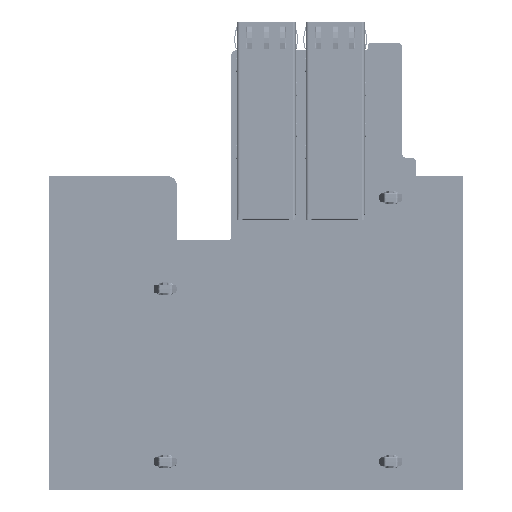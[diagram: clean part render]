
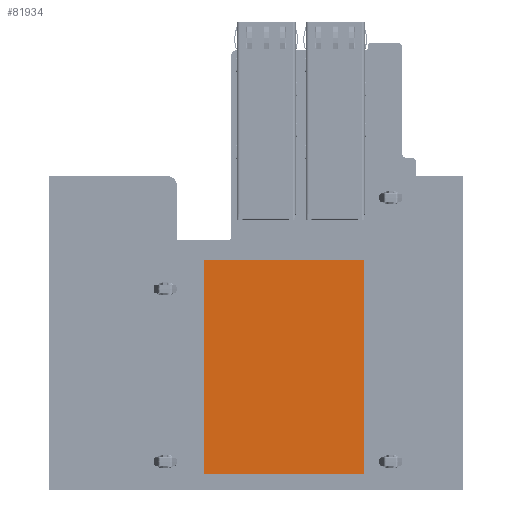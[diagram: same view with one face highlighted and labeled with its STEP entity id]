
A CAD part, front view. The second image highlights one B-rep face of the part: STEP entity #81934.
In plain terms, the highlighted planar face has unit normal (0, -1, 0).
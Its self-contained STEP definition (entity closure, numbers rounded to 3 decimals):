
#81807=DIRECTION('',(-1.,0.,0.));
#81808=VECTOR('',#81807,39.342);
#81809=CARTESIAN_POINT('',(37.072,-7.5,-53.425));
#81810=LINE('',#81809,#81808);
#81814=DIRECTION('',(0.,0.,1.));
#81815=VECTOR('',#81814,52.625);
#81816=CARTESIAN_POINT('',(37.072,-7.5,-106.05));
#81817=LINE('',#81816,#81815);
#81821=DIRECTION('',(1.,0.,0.));
#81822=VECTOR('',#81821,39.342);
#81823=CARTESIAN_POINT('',(-2.27,-7.5,-106.05));
#81824=LINE('',#81823,#81822);
#81828=DIRECTION('',(0.,0.,-1.));
#81829=VECTOR('',#81828,52.625);
#81830=CARTESIAN_POINT('',(-2.27,-7.5,-53.425));
#81831=LINE('',#81830,#81829);
#81843=CARTESIAN_POINT('',(37.072,-7.5,-53.425));
#81844=CARTESIAN_POINT('',(-2.27,-7.5,-53.425));
#81845=VERTEX_POINT('',#81843);
#81846=VERTEX_POINT('',#81844);
#81847=CARTESIAN_POINT('',(-2.27,-7.5,-106.05));
#81848=VERTEX_POINT('',#81847);
#81849=CARTESIAN_POINT('',(37.072,-7.5,-106.05));
#81850=VERTEX_POINT('',#81849);
#81923=CARTESIAN_POINT('',(0.,-7.5,0.));
#81924=DIRECTION('',(0.,-1.,0.));
#81925=DIRECTION('',(1.,0.,0.));
#81926=AXIS2_PLACEMENT_3D('',#81923,#81924,#81925);
#81927=PLANE('',#81926);
#81928=ORIENTED_EDGE('',*,*,#81875,.F.);
#81929=ORIENTED_EDGE('',*,*,#81890,.F.);
#81930=ORIENTED_EDGE('',*,*,#81904,.F.);
#81931=ORIENTED_EDGE('',*,*,#81917,.F.);
#81932=EDGE_LOOP('',(#81928,#81929,#81930,#81931));
#81933=FACE_OUTER_BOUND('',#81932,.F.);
#81875=EDGE_CURVE('',#81845,#81846,#81810,.T.);
#81890=EDGE_CURVE('',#81850,#81845,#81817,.T.);
#81904=EDGE_CURVE('',#81848,#81850,#81824,.T.);
#81917=EDGE_CURVE('',#81846,#81848,#81831,.T.);
#81934=ADVANCED_FACE('',(#81933),#81927,.T.);
